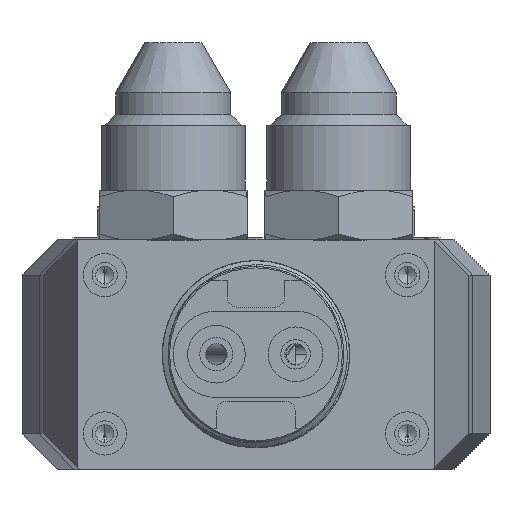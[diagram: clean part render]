
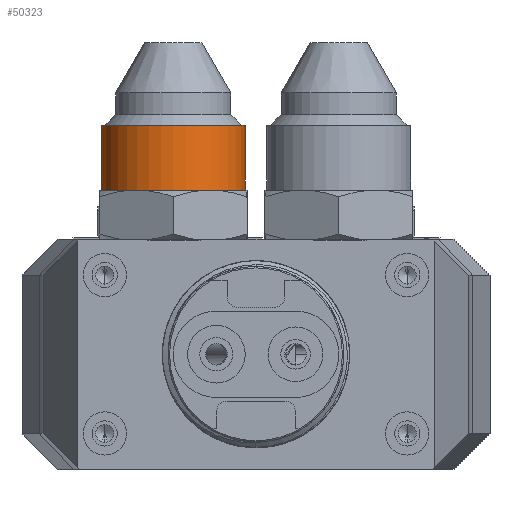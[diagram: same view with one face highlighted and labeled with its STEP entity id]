
A CAD part, front view. The second image highlights one B-rep face of the part: STEP entity #50323.
In plain terms, the highlighted cylindrical face has radius 10 mm (diameter 20 mm), a partial arc.
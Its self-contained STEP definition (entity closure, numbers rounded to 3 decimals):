
#313 = EDGE_CURVE ( 'NONE', #48792, #57754, #27605, .T. ) ;
#2084 = CARTESIAN_POINT ( 'NONE',  ( -87.429, -135.418, 1021.303 ) ) ;
#5313 = CARTESIAN_POINT ( 'NONE',  ( -97.429, -135.418, 1052.575 ) ) ;
#6086 = LINE ( 'NONE', #28628, #10747 ) ;
#6743 = EDGE_CURVE ( 'NONE', #52232, #54603, #6086, .T. ) ;
#8740 = CARTESIAN_POINT ( 'NONE',  ( -87.429, -135.418, 1052.575 ) ) ;
#10507 = EDGE_CURVE ( 'NONE', #52232, #48792, #23178, .T. ) ;
#10747 = VECTOR ( 'NONE', #47188, 1000. ) ;
#12965 = ORIENTED_EDGE ( 'NONE', *, *, #6743, .F. ) ;
#13755 = ORIENTED_EDGE ( 'NONE', *, *, #59351, .T. ) ;
#18469 = DIRECTION ( 'NONE',  ( 0., 0., 1. ) ) ;
#19047 = CYLINDRICAL_SURFACE ( 'NONE', #56036, 10. ) ;
#22747 = CARTESIAN_POINT ( 'NONE',  ( -97.429, -135.418, 1030.303 ) ) ;
#23178 = CIRCLE ( 'NONE', #40696, 10. ) ;
#23663 = DIRECTION ( 'NONE',  ( 1., 0., 0. ) ) ;
#27605 = LINE ( 'NONE', #8740, #59524 ) ;
#28628 = CARTESIAN_POINT ( 'NONE',  ( -107.429, -135.418, 1052.575 ) ) ;
#34320 = CIRCLE ( 'NONE', #51819, 10. ) ;
#34978 = CARTESIAN_POINT ( 'NONE',  ( -107.429, -135.418, 1021.303 ) ) ;
#35846 = DIRECTION ( 'NONE',  ( 0., 0., 1. ) ) ;
#37688 = EDGE_LOOP ( 'NONE', ( #12965, #48544, #42374, #13755 ) ) ;
#40696 = AXIS2_PLACEMENT_3D ( 'NONE', #56230, #41936, #23663 ) ;
#41365 = CARTESIAN_POINT ( 'NONE',  ( -87.429, -135.418, 1030.303 ) ) ;
#41579 = FACE_OUTER_BOUND ( 'NONE', #37688, .T. ) ;
#41879 = DIRECTION ( 'NONE',  ( 1., 0., 0. ) ) ;
#41936 = DIRECTION ( 'NONE',  ( 0., 0., 1. ) ) ;
#42374 = ORIENTED_EDGE ( 'NONE', *, *, #313, .T. ) ;
#46157 = DIRECTION ( 'NONE',  ( 0., 0., -1. ) ) ;
#47188 = DIRECTION ( 'NONE',  ( 0., 0., 1. ) ) ;
#48544 = ORIENTED_EDGE ( 'NONE', *, *, #10507, .T. ) ;
#48792 = VERTEX_POINT ( 'NONE', #2084 ) ;
#50323 = ADVANCED_FACE ( 'NONE', ( #41579 ), #19047, .T. ) ;
#50728 = CARTESIAN_POINT ( 'NONE',  ( -107.429, -135.418, 1030.303 ) ) ;
#51819 = AXIS2_PLACEMENT_3D ( 'NONE', #22747, #46157, #59860 ) ;
#52232 = VERTEX_POINT ( 'NONE', #34978 ) ;
#54603 = VERTEX_POINT ( 'NONE', #50728 ) ;
#56036 = AXIS2_PLACEMENT_3D ( 'NONE', #5313, #18469, #41879 ) ;
#56230 = CARTESIAN_POINT ( 'NONE',  ( -97.429, -135.418, 1021.303 ) ) ;
#57754 = VERTEX_POINT ( 'NONE', #41365 ) ;
#59351 = EDGE_CURVE ( 'NONE', #57754, #54603, #34320, .T. ) ;
#59524 = VECTOR ( 'NONE', #35846, 1000. ) ;
#59860 = DIRECTION ( 'NONE',  ( 1., 0., 0. ) ) ;
